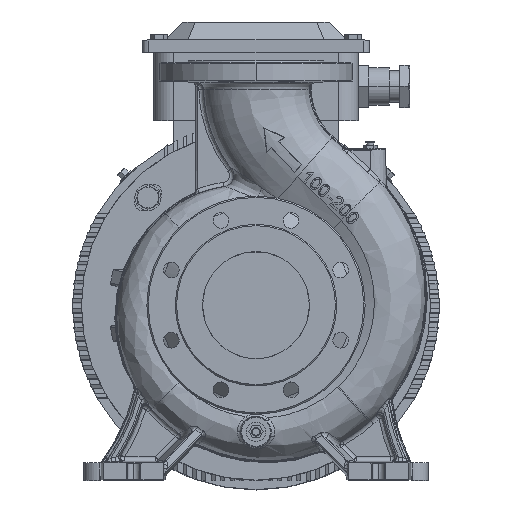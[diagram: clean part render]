
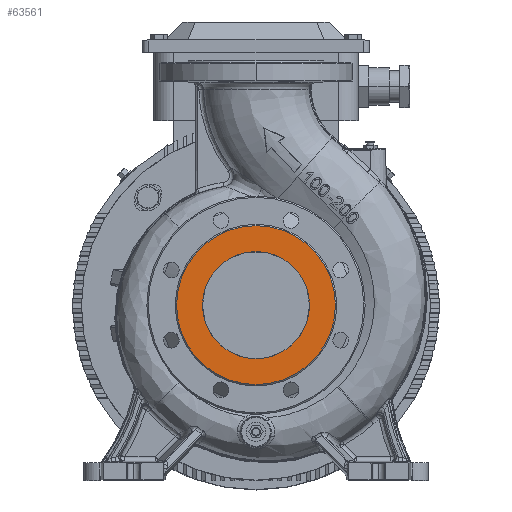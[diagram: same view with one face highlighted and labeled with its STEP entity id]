
A CAD part, top view. The second image highlights one B-rep face of the part: STEP entity #63561.
In plain terms, the highlighted planar face has unit normal (0, 0, 1).
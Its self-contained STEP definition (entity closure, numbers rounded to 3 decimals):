
#5868 = EDGE_CURVE ( 'NONE', #86201, #40841, #20784, .T. ) ;
#7966 = DIRECTION ( 'NONE',  ( -1., 0., 0. ) ) ;
#9658 = AXIS2_PLACEMENT_3D ( 'NONE', #23835, #89418, #60573 ) ;
#18899 = DIRECTION ( 'NONE',  ( -1., 0., 0. ) ) ;
#20566 = AXIS2_PLACEMENT_3D ( 'NONE', #22339, #86163, #23542 ) ;
#20784 = CIRCLE ( 'NONE', #22669, 91. ) ;
#22339 = CARTESIAN_POINT ( 'NONE',  ( 0., 0., 140. ) ) ;
#22669 = AXIS2_PLACEMENT_3D ( 'NONE', #67525, #50639, #87385 ) ;
#23542 = DIRECTION ( 'NONE',  ( 0., -1., 0. ) ) ;
#23635 = ORIENTED_EDGE ( 'NONE', *, *, #79443, .T. ) ;
#23835 = CARTESIAN_POINT ( 'NONE',  ( 0., 0., 140. ) ) ;
#28510 = CARTESIAN_POINT ( 'NONE',  ( 0., 0., 140. ) ) ;
#29086 = EDGE_CURVE ( 'NONE', #40841, #86201, #104036, .T. ) ;
#31341 = DIRECTION ( 'NONE',  ( 0., 0., -1. ) ) ;
#31612 = ORIENTED_EDGE ( 'NONE', *, *, #5868, .T. ) ;
#32771 = CIRCLE ( 'NONE', #9658, 61.306 ) ;
#35913 = VERTEX_POINT ( 'NONE', #63444 ) ;
#40841 = VERTEX_POINT ( 'NONE', #110882 ) ;
#41139 = VERTEX_POINT ( 'NONE', #117993 ) ;
#42193 = FACE_BOUND ( 'NONE', #56536, .T. ) ;
#45258 = AXIS2_PLACEMENT_3D ( 'NONE', #28510, #31341, #18899 ) ;
#46291 = AXIS2_PLACEMENT_3D ( 'NONE', #91037, #64538, #7966 ) ;
#50639 = DIRECTION ( 'NONE',  ( 0., 0., 1. ) ) ;
#50873 = CARTESIAN_POINT ( 'NONE',  ( -91., 0., 140. ) ) ;
#56536 = EDGE_LOOP ( 'NONE', ( #103120, #23635 ) ) ;
#60573 = DIRECTION ( 'NONE',  ( -1., 0., 0. ) ) ;
#63444 = CARTESIAN_POINT ( 'NONE',  ( -61.306, 0., 140. ) ) ;
#63561 = ADVANCED_FACE ( 'NONE', ( #105993, #42193 ), #95165, .F. ) ;
#64538 = DIRECTION ( 'NONE',  ( 0., 0., 1. ) ) ;
#67525 = CARTESIAN_POINT ( 'NONE',  ( 0., 0., 140. ) ) ;
#79443 = EDGE_CURVE ( 'NONE', #41139, #35913, #81782, .T. ) ;
#81782 = CIRCLE ( 'NONE', #45258, 61.306 ) ;
#86163 = DIRECTION ( 'NONE',  ( 0., 0., -1. ) ) ;
#86201 = VERTEX_POINT ( 'NONE', #50873 ) ;
#87385 = DIRECTION ( 'NONE',  ( -1., 0., 0. ) ) ;
#89418 = DIRECTION ( 'NONE',  ( 0., 0., -1. ) ) ;
#89849 = EDGE_CURVE ( 'NONE', #35913, #41139, #32771, .T. ) ;
#91037 = CARTESIAN_POINT ( 'NONE',  ( 0., 0., 140. ) ) ;
#95165 = PLANE ( 'NONE',  #20566 ) ;
#101465 = EDGE_LOOP ( 'NONE', ( #103859, #31612 ) ) ;
#103120 = ORIENTED_EDGE ( 'NONE', *, *, #89849, .T. ) ;
#103859 = ORIENTED_EDGE ( 'NONE', *, *, #29086, .T. ) ;
#104036 = CIRCLE ( 'NONE', #46291, 91. ) ;
#105993 = FACE_OUTER_BOUND ( 'NONE', #101465, .T. ) ;
#110882 = CARTESIAN_POINT ( 'NONE',  ( 91., 0., 140. ) ) ;
#117993 = CARTESIAN_POINT ( 'NONE',  ( 61.306, 0., 140. ) ) ;
